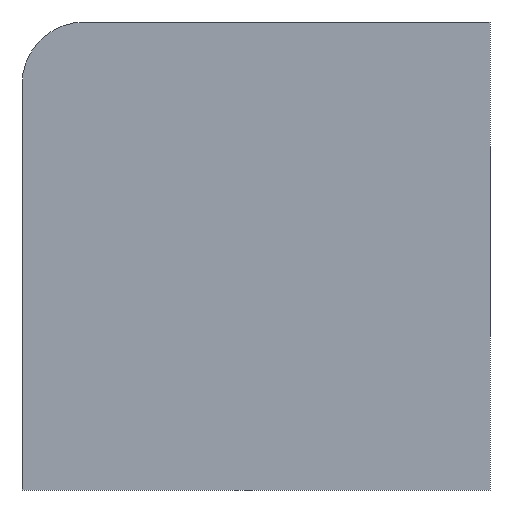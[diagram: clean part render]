
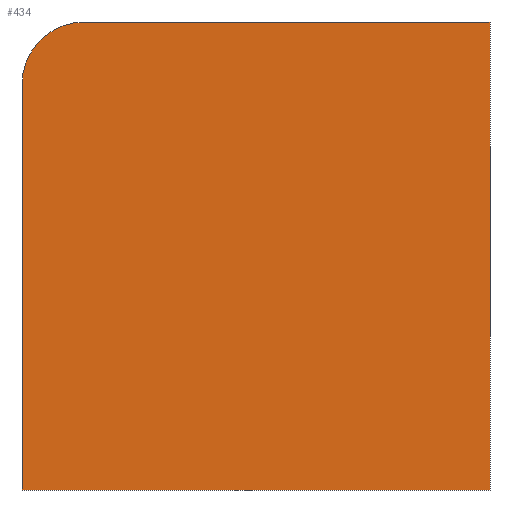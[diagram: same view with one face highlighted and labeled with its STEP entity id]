
A CAD part, front view. The second image highlights one B-rep face of the part: STEP entity #434.
In plain terms, the highlighted planar face has unit normal (0, -1, 0).
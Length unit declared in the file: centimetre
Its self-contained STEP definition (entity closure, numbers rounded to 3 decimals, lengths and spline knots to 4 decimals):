
#22 = DIRECTION ( 'NONE',  ( 0., -1., 0. ) ) ;
#24 = CARTESIAN_POINT ( 'NONE',  ( 0., 0., 0. ) ) ;
#25 = VERTEX_POINT ( 'NONE', #244 ) ;
#28 = DIRECTION ( 'NONE',  ( 0., 0., -1. ) ) ;
#56 = CARTESIAN_POINT ( 'NONE',  ( 0., 0., 1000. ) ) ;
#66 = CARTESIAN_POINT ( 'NONE',  ( 0., 0., 1000. ) ) ;
#100 = DIRECTION ( 'NONE',  ( 0., 0., 1. ) ) ;
#109 = DIRECTION ( 'NONE',  ( 0., 1., 0. ) ) ;
#127 = EDGE_LOOP ( 'NONE', ( #432, #307, #286, #433, #263 ) ) ;
#145 = AXIS2_PLACEMENT_3D ( 'NONE', #437, #22, #496 ) ;
#147 = CARTESIAN_POINT ( 'NONE',  ( 0., 0., 1000. ) ) ;
#159 = VERTEX_POINT ( 'NONE', #24 ) ;
#163 = CARTESIAN_POINT ( 'NONE',  ( 133.3905, 0., 1000. ) ) ;
#180 = PLANE ( 'NONE',  #474 ) ;
#193 = CIRCLE ( 'NONE', #145, 133.3905 ) ;
#195 = VERTEX_POINT ( 'NONE', #203 ) ;
#203 = CARTESIAN_POINT ( 'NONE',  ( 0., 0., 866.6095 ) ) ;
#220 = LINE ( 'NONE', #272, #456 ) ;
#238 = VERTEX_POINT ( 'NONE', #253 ) ;
#244 = CARTESIAN_POINT ( 'NONE',  ( 1000., 0., 1000. ) ) ;
#246 = VECTOR ( 'NONE', #266, 100. ) ;
#251 = EDGE_CURVE ( 'NONE', #283, #25, #257, .T. ) ;
#253 = CARTESIAN_POINT ( 'NONE',  ( 1000., 0., 0. ) ) ;
#257 = LINE ( 'NONE', #56, #382 ) ;
#263 = ORIENTED_EDGE ( 'NONE', *, *, #429, .F. ) ;
#265 = LINE ( 'NONE', #312, #431 ) ;
#266 = DIRECTION ( 'NONE',  ( 0., 0., -1. ) ) ;
#272 = CARTESIAN_POINT ( 'NONE',  ( 1000., 0., 1000. ) ) ;
#283 = VERTEX_POINT ( 'NONE', #163 ) ;
#286 = ORIENTED_EDGE ( 'NONE', *, *, #513, .T. ) ;
#307 = ORIENTED_EDGE ( 'NONE', *, *, #374, .T. ) ;
#309 = LINE ( 'NONE', #147, #246 ) ;
#312 = CARTESIAN_POINT ( 'NONE',  ( 0., 0., 0. ) ) ;
#374 = EDGE_CURVE ( 'NONE', #283, #195, #193, .T. ) ;
#382 = VECTOR ( 'NONE', #409, 100. ) ;
#409 = DIRECTION ( 'NONE',  ( 1., 0., 0. ) ) ;
#418 = DIRECTION ( 'NONE',  ( 1., 0., 0. ) ) ;
#419 = EDGE_CURVE ( 'NONE', #159, #238, #265, .T. ) ;
#429 = EDGE_CURVE ( 'NONE', #25, #238, #220, .T. ) ;
#431 = VECTOR ( 'NONE', #418, 100. ) ;
#432 = ORIENTED_EDGE ( 'NONE', *, *, #251, .F. ) ;
#433 = ORIENTED_EDGE ( 'NONE', *, *, #419, .T. ) ;
#434 = ADVANCED_FACE ( 'NONE', ( #459 ), #180, .F. ) ;
#437 = CARTESIAN_POINT ( 'NONE',  ( 133.3905, 0., 866.6095 ) ) ;
#456 = VECTOR ( 'NONE', #28, 100. ) ;
#459 = FACE_OUTER_BOUND ( 'NONE', #127, .T. ) ;
#474 = AXIS2_PLACEMENT_3D ( 'NONE', #66, #109, #100 ) ;
#496 = DIRECTION ( 'NONE',  ( 0., 0., 1. ) ) ;
#513 = EDGE_CURVE ( 'NONE', #195, #159, #309, .T. ) ;
